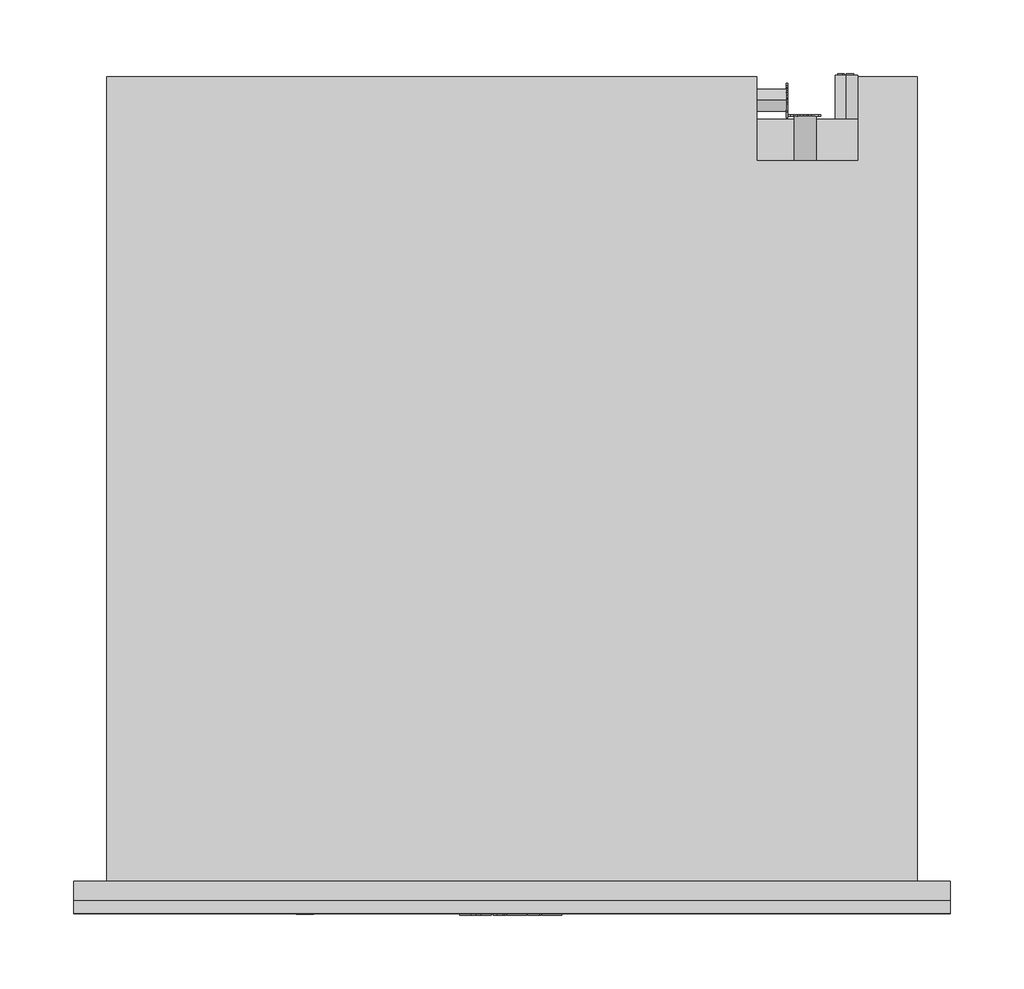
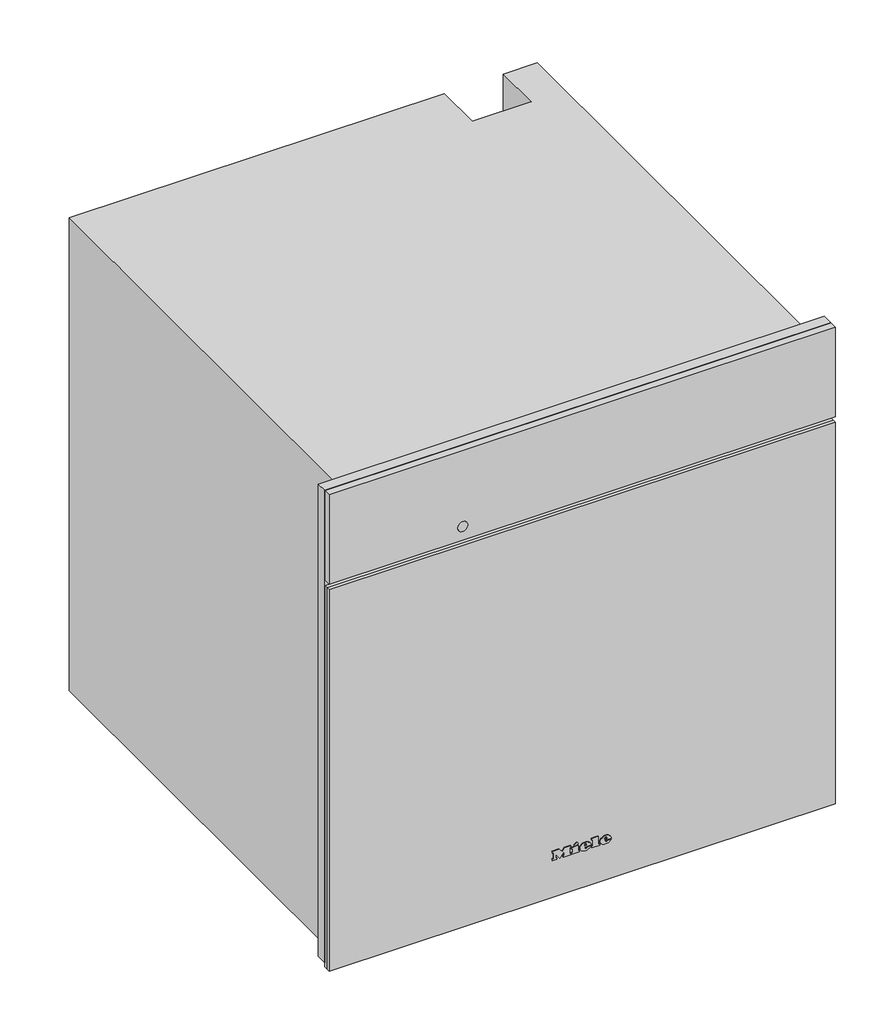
# Not in any storey: 1 proxy.
"""IFC4 building model written with IfcOpenShell, lengths in millimetres."""

import ifcopenshell
import ifcopenshell.guid

model = None  # the IFC model being written
_history = None  # IfcOwnerHistory: only IFC2X3 demands one
_inside = {}  # id of a spatial element -> (the spatial element, [elements in it])
_under = {}  # id of a project, library or spatial element -> (it, [spatial elements below it])
_declared = {}  # id of a project -> (the project, [libraries it declares])
_typed = {}  # id of a type object -> (the type object, [elements of that type])
_made_of = {}  # id of a material, layer set ... -> (it, [elements and type objects made of it])


def new_model(schema):
    """Start an empty IFC model of exactly this schema.

    Asked for "IFC4X3", IfcOpenShell would pick the latest addendum, in which some entities
    have other attributes; the version numbers below select the first issue.
    IFC2X3 requires an IfcOwnerHistory on every rooted entity: one is made here for all.
    """
    global model, _history
    if schema == "IFC4X3":
        model = ifcopenshell.file(schema_version=(4, 3, 0, 0))
    else:
        model = ifcopenshell.file(schema=schema)
    _inside.clear()
    _under.clear()
    _declared.clear()
    _typed.clear()
    _made_of.clear()
    _history = None
    if model.schema == "IFC2X3":
        org = make("IfcOrganization", Name="unknown")
        user = make(
            "IfcPersonAndOrganization",
            ThePerson=make("IfcPerson", FamilyName="unknown"),
            TheOrganization=org,
        )
        app = make(
            "IfcApplication",
            ApplicationDeveloper=org,
            Version="unknown",
            ApplicationFullName="unknown",
            ApplicationIdentifier="unknown",
        )
        _history = make(
            "IfcOwnerHistory",
            OwningUser=user,
            OwningApplication=app,
            ChangeAction="ADDED",
            CreationDate=0,
        )
    return model


def make(cls, **values):
    """One entity of the class cls with the attributes given. An attribute that is None is left unset."""
    return model.create_entity(
        cls, **{name: value for name, value in values.items() if value is not None}
    )


def rooted(cls, **values):
    """An entity with a GlobalId (a new one), such as an element, a storey or a relation."""
    return make(cls, GlobalId=ifcopenshell.guid.new(), OwnerHistory=_history, **values)


def si_unit(unit_type, name, prefix=None):
    """IfcSIUnit, for example si_unit("LENGTHUNIT", "METRE", prefix="MILLI")."""
    return make("IfcSIUnit", UnitType=unit_type, Prefix=prefix, Name=name)


def assignment(units):
    """IfcUnitAssignment: the units of a project."""
    return None if units is None else make("IfcUnitAssignment", Units=units)


def point(xyz):
    """IfcCartesianPoint."""
    return None if xyz is None else make("IfcCartesianPoint", Coordinates=xyz)


def direction(xyz):
    """IfcDirection."""
    return None if xyz is None else make("IfcDirection", DirectionRatios=xyz)


def frame(location, z_axis=None, x_axis=None):
    """IfcAxis2Placement3D, a coordinate frame: its origin and axes. An axis left out is left unset."""
    return make(
        "IfcAxis2Placement3D",
        Location=point(location),
        Axis=direction(z_axis),
        RefDirection=direction(x_axis),
    )


def frame_2d(location, x_axis=None):
    """IfcAxis2Placement2D, a coordinate frame in the plane: its origin and x axis."""
    return make(
        "IfcAxis2Placement2D", Location=point(location), RefDirection=direction(x_axis)
    )


def origin():
    """The frame at (0, 0, 0) with its axes left unset."""
    return frame((0.0, 0.0, 0.0))


def place(relative_to, where):
    """IfcLocalPlacement: puts the frame where relative to a parent placement (None: the world)."""
    return make(
        "IfcLocalPlacement", PlacementRelTo=relative_to, RelativePlacement=where
    )


def context(
    kind, dimensions, precision=None, world=None, true_north=None, identifier=None
):
    """IfcGeometricRepresentationContext, for example the 3D "Model" context."""
    return make(
        "IfcGeometricRepresentationContext",
        ContextIdentifier=identifier,
        ContextType=kind,
        CoordinateSpaceDimension=dimensions,
        Precision=precision,
        WorldCoordinateSystem=world,
        TrueNorth=true_north,
    )


def project(units=None, contexts=None):
    """IfcProject with its units and contexts."""
    return rooted(
        "IfcProject",
        Name="project",
        RepresentationContexts=contexts,
        UnitsInContext=assignment(units),
    )


def spatial(cls, under=None, at=None, **own):
    """A site, building, storey or space (cls), placed at a placement, below another one or the project."""
    s = rooted(cls, ObjectPlacement=at, **own)
    if under is not None:
        _under.setdefault(under.id(), (under, []))[1].append(s)
    return s


def polyline(points):
    """IfcPolyline through the points."""
    return make("IfcPolyline", Points=[point(p) for p in points])


def circle_curve(where, radius):
    """IfcCircle in the frame where."""
    return make("IfcCircle", Position=where, Radius=radius)


def ellipse_curve(where, semi_axis1, semi_axis2):
    """IfcEllipse in the frame where."""
    return make(
        "IfcEllipse", Position=where, SemiAxis1=semi_axis1, SemiAxis2=semi_axis2
    )


def trimmed(basis, trim1, trim2, sense, master):
    """IfcTrimmedCurve: the piece of a basis curve between two trims."""
    return make(
        "IfcTrimmedCurve",
        BasisCurve=basis,
        Trim1=trim1,
        Trim2=trim2,
        SenseAgreement=sense,
        MasterRepresentation=master,
    )


def segment(curve, same_sense, transition):
    """IfcCompositeCurveSegment."""
    return make(
        "IfcCompositeCurveSegment",
        Transition=transition,
        SameSense=same_sense,
        ParentCurve=curve,
    )


def composite_curve(segments, self_intersect=None):
    """IfcCompositeCurve: segments joined end to end."""
    return make("IfcCompositeCurve", Segments=segments, SelfIntersect=self_intersect)


def outline(outer, holes=None, kind="AREA"):
    """IfcArbitraryClosedProfileDef: a profile drawn as a closed curve; with holes, ...WithVoids."""
    if holes is None:
        return make("IfcArbitraryClosedProfileDef", ProfileType=kind, OuterCurve=outer)
    return make(
        "IfcArbitraryProfileDefWithVoids",
        ProfileType=kind,
        OuterCurve=outer,
        InnerCurves=holes,
    )


def extrude(swept, where, along, depth):
    """IfcExtrudedAreaSolid: the profile swept, set in the frame where, extruded along a direction by depth."""
    return make(
        "IfcExtrudedAreaSolid",
        SweptArea=swept,
        Position=where,
        ExtrudedDirection=direction(along),
        Depth=depth,
    )


def faces_of(points, faces, orient=None, outer=None):
    """IfcFace entities. A face is a list of loops; a loop is a list of indices into points, from 0.

    orient and outer hold one flag for each loop. By default every Orientation is true, the
    first loop of a face is its IfcFaceOuterBound and the others are IfcFaceBound.
    """
    made = []
    for i, loops in enumerate(faces):
        bounds = []
        for j, loop in enumerate(loops):
            is_outer = j == 0 if outer is None else outer[i][j]
            bounds.append(
                make(
                    "IfcFaceOuterBound" if is_outer else "IfcFaceBound",
                    Bound=make("IfcPolyLoop", Polygon=[points[k] for k in loop]),
                    Orientation=True if orient is None else orient[i][j],
                )
            )
        made.append(make("IfcFace", Bounds=bounds))
    return made


def faceted_brep(points, faces, orient=None, outer=None, voids=None):
    """IfcFacetedBrep: a solid bounded by flat faces; with voids (closed shells), ...WithVoids."""
    shared = [point(p) for p in points]
    hull = make("IfcClosedShell", CfsFaces=faces_of(shared, faces, orient, outer))
    if voids is None:
        return make("IfcFacetedBrep", Outer=hull)
    return make(
        "IfcFacetedBrepWithVoids",
        Outer=hull,
        Voids=[
            make(cls, CfsFaces=faces_of(shared, fs, o, b)) for cls, fs, o, b in voids
        ],
    )


def shape(context_of_items, identifier, shape_type, items):
    """IfcShapeRepresentation: the items that make up one representation, for example the "Body"."""
    return make(
        "IfcShapeRepresentation",
        ContextOfItems=context_of_items,
        RepresentationIdentifier=identifier,
        RepresentationType=shape_type,
        Items=items,
    )


def source(mapping_origin, context_of_items, identifier, shape_type, items):
    """IfcRepresentationMap: a shape defined once, which mapped items show again and again."""
    return make(
        "IfcRepresentationMap",
        MappingOrigin=mapping_origin,
        MappedRepresentation=shape(context_of_items, identifier, shape_type, items),
    )


def transform(
    local_origin,
    x_axis=None,
    y_axis=None,
    z_axis=None,
    scale=None,
    scale2=None,
    scale3=None,
    uniform=True,
):
    """IfcCartesianTransformationOperator3D, or its non-uniform kind. x_axis, y_axis, z_axis: its Axis1, 2, 3."""
    if uniform:
        return make(
            "IfcCartesianTransformationOperator3D",
            Axis1=direction(x_axis),
            Axis2=direction(y_axis),
            LocalOrigin=point(local_origin),
            Scale=scale,
            Axis3=direction(z_axis),
        )
    return make(
        "IfcCartesianTransformationOperator3DnonUniform",
        Axis1=direction(x_axis),
        Axis2=direction(y_axis),
        LocalOrigin=point(local_origin),
        Scale=scale,
        Axis3=direction(z_axis),
        Scale2=scale2,
        Scale3=scale3,
    )


def mapped(mapping_source, mapping_target):
    """IfcMappedItem: shows the shape of a source again, moved by a transform."""
    return make(
        "IfcMappedItem", MappingSource=mapping_source, MappingTarget=mapping_target
    )


def made_of(thing, what):
    """Note that an element or type object is made of a material, layer set ...; save() writes the relation."""
    if what is not None:
        _made_of.setdefault(what.id(), (what, []))[1].append(thing)
    return thing


def element(
    cls,
    number,
    at=None,
    inside=None,
    cuts=None,
    type_object=None,
    material=None,
    context=None,
    identifier="Body",
    shape_type=None,
    held_by="IfcProductDefinitionShape",
    body=None,
    shapes=None,
    **own,
):
    """One element of the class cls, such as IfcWall. Its Tag is "e" and its number.

    at: its placement. inside: the storey or other place that contains it. cuts: it is an
    opening in that element (IfcRelVoidsElement). A single representation is given by context,
    identifier, shape_type and body (its items); several are given by shapes. held_by: the class
    of the entity that holds the representations. save() writes the other relations.
    """
    e = rooted(cls, Tag="e%d" % number, ObjectPlacement=at, **own)
    if body is not None:
        shapes = [shape(context, identifier, shape_type, body)]
    if shapes is not None:
        e.Representation = make(held_by, Representations=shapes)
    if inside is not None:
        _inside.setdefault(inside.id(), (inside, []))[1].append(e)
    if cuts is not None:
        rooted(
            "IfcRelVoidsElement", RelatingBuildingElement=cuts, RelatedOpeningElement=e
        )
    if type_object is not None:
        _typed.setdefault(type_object.id(), (type_object, []))[1].append(e)
    return made_of(e, material)


def aggregate(whole, parts):
    """IfcRelAggregates: a whole, such as a stair, and the parts it consists of."""
    return rooted("IfcRelAggregates", RelatingObject=whole, RelatedObjects=parts)


def save(model, path):
    """Write the relations noted so far, then the file.

    IfcRelAggregates (storeys below a building ...), IfcRelContainedInSpatialStructure (elements
    in a storey), IfcRelDefinesByType, IfcRelAssociatesMaterial and IfcRelDeclares: one each for
    every whole, place, type object, material and project.
    """
    for whole, parts in _under.values():
        aggregate(whole, parts)
    for where, things in _inside.values():
        rooted(
            "IfcRelContainedInSpatialStructure",
            RelatedElements=things,
            RelatingStructure=where,
        )
    for kind, things in _typed.values():
        rooted("IfcRelDefinesByType", RelatedObjects=things, RelatingType=kind)
    for what, things in _made_of.values():
        rooted("IfcRelAssociatesMaterial", RelatedObjects=things, RelatingMaterial=what)
    for by, libraries in _declared.values():
        rooted("IfcRelDeclares", RelatingContext=by, RelatedDefinitions=libraries)
    model.write(path)


def plane_surface(at):
    """IfcPlane: the flat surface through the origin of the frame at, square to its z axis."""
    return make("IfcPlane", Position=at)


def cylinder_surface(at, radius):
    """IfcCylindricalSurface: all points at the distance radius from the z axis of the frame at."""
    return make("IfcCylindricalSurface", Position=at, Radius=radius)


def revolved_surface(curve, axis_point, axis_direction):
    """IfcSurfaceOfRevolution: the curve turned about the line through axis_point along axis_direction."""
    return make(
        "IfcSurfaceOfRevolution",
        SweptCurve=make("IfcArbitraryOpenProfileDef", ProfileType="CURVE", Curve=curve),
        AxisPosition=make("IfcAxis1Placement", Location=point(axis_point), Axis=direction(axis_direction)),
    )


def extruded_surface(curve, direction_of_extrusion, depth):
    """IfcSurfaceOfLinearExtrusion: the curve pushed along a direction by depth."""
    return make(
        "IfcSurfaceOfLinearExtrusion",
        SweptCurve=make("IfcArbitraryOpenProfileDef", ProfileType="CURVE", Curve=curve),
        ExtrudedDirection=direction(direction_of_extrusion),
        Depth=depth,
    )


def advanced_brep(points, edges, surfaces, faces):
    """IfcAdvancedBrep: a solid bounded by faces that lie on surfaces and meet in shared edges.

    An edge is (start, end): straight between two places in points (the first is 0);
    or (start, end, curve); or (start, end, curve, False) where it runs against its curve.
    A face is (place in surfaces, loops), or (place, loops, False) where it looks against
    its surface's normal. A loop lists edges by number (the first is 1), with a minus sign
    where the edge is run from its end to its start. The first loop is the outer one.
    """
    corners = [point(p) for p in points]
    vertices = [make("IfcVertexPoint", VertexGeometry=c) for c in corners]
    made = []
    for start, end, *more in edges:
        made.append(
            make(
                "IfcEdgeCurve",
                EdgeStart=vertices[start],
                EdgeEnd=vertices[end],
                EdgeGeometry=more[0] if more else make("IfcPolyline", Points=[corners[start], corners[end]]),
                SameSense=more[1] if len(more) > 1 else True,
            )
        )
    hull = []
    for where, loops, *sense in faces:
        bounds = []
        for j, loop in enumerate(loops):
            ring = [make("IfcOrientedEdge", EdgeElement=made[abs(k) - 1], Orientation=k > 0) for k in loop]
            bounds.append(
                make(
                    "IfcFaceOuterBound" if j == 0 else "IfcFaceBound",
                    Bound=make("IfcEdgeLoop", EdgeList=ring),
                    Orientation=True,
                )
            )
        hull.append(make("IfcAdvancedFace", Bounds=bounds, FaceSurface=surfaces[where], SameSense=sense[0] if sense else True))
    return make("IfcAdvancedBrep", Outer=make("IfcClosedShell", CfsFaces=hull))


def specialty_equipment_e31bad16(model_context):
    return source(origin(), model_context, "Body", "SolidModel", [
        extrude(outline(polyline([(596.0, 297.5), (596.0, -297.5), (9.0, -297.5), (9.0, 297.5), (596.0, 297.5)]), holes=[polyline([(485.0, -272.5), (485.0, 272.5), (27.0, 272.5), (27.0, -272.5), (485.0, -272.5)])]), frame((0.0, -13.0, 0.0), z_axis=(0.0, 1.0, 0.0), x_axis=(0.0, 0.0, 1.0)), (0.0, 0.0, 1.0), 13.0),
        extrude(outline(polyline([(523.0, 196.9217896), (523.0, 198.4267862), (533.0435673, 201.1942402), (533.0435673, 199.9014806), (524.4295103, 197.7797951), (533.0470645, 195.3087512), (533.0470645, 193.4373937), (524.4121052, 190.9191482), (533.0472266, 188.8443938), (533.0472266, 187.5376524), (523.0, 190.2769667), (523.0, 191.6257455), (531.8347238, 194.3884733), (523.0, 196.9217896)])), frame((0.0, 519.0, 0.0), z_axis=(0.0, 1.0, 0.0), x_axis=(0.0, 0.0, 1.0)), (0.0, 0.0, 1.0), 1.0),
        extrude(outline(polyline([(533.0468463, 209.521488), (533.0468463, 208.2566067), (528.129594, 208.2566067), (533.0474898, 203.1074328), (533.0474898, 201.3597489), (528.9313111, 205.6695027), (523.0, 201.1858157), (523.0, 202.7358731), (528.0700777, 206.5685235), (526.4282746, 208.2823622), (523.0, 208.2823622), (523.0, 209.521488), (533.0468463, 209.521488)])), frame((0.0, 519.0, 0.0), z_axis=(0.0, 1.0, 0.0), x_axis=(0.0, 0.0, 1.0)), (0.0, 0.0, 1.0), 1.0),
        extrude(outline(polyline([(518.3136153, 20.0), (522.323529, 30.045631), (523.3928394, 30.045631), (527.4027531, 20.0), (526.0759254, 20.0), (524.925681, 23.1392597), (520.7882348, 23.1392597), (519.640443, 20.0), (518.3136153, 20.0)]), holes=[polyline([(521.2493136, 24.3949636), (524.4670548, 24.3949636), (523.5620651, 26.864678), (522.8581842, 28.7899271), (522.2327848, 27.0805021), (521.2493136, 24.3949636)])]), frame((186.0, 0.0, 0.0), z_axis=(1.0, 0.0, 0.0), x_axis=(0.0, 1.0, 0.0)), (0.0, 0.0, 1.0), 1.0),
        extrude(outline(polyline([(530.5420128, 20.0), (527.8025182, 30.045631), (529.0974628, 30.045631), (530.6867131, 23.4433755), (531.1772224, 21.4053092), (531.7020674, 23.207931), (533.6935352, 30.045631), (535.5599232, 30.045631), (537.0069257, 25.0890343), (538.0835937, 21.4053092), (538.5593878, 23.3845144), (540.1633533, 30.045631), (541.4582979, 30.045631), (538.7163507, 20.0), (537.3748077, 20.0), (534.9664069, 27.7500474), (534.630408, 28.8316204), (534.2527159, 27.5293182), (532.0576866, 20.0), (530.5420128, 20.0)])), frame((186.0, 0.0, 0.0), z_axis=(1.0, 0.0, 0.0), x_axis=(0.0, 1.0, 0.0)), (0.0, 0.0, 1.0), 1.0),
        advanced_brep(
        [(227.0, 547.0, 396.5), (227.0, 547.0, 381.5), (221.4098301, 547.0, 384.0), (225.5, 547.0, 384.0), (225.5, 547.0, 394.0), (224.4955303, 547.0, 394.0), (224.4955303, 547.0, 385.0), (221.0315043, 547.0, 385.0), (221.0315043, 547.0, 384.4582978), (232.0, 547.0, 384.0), (232.0, 547.0, 394.0), (227.0, 547.0, 394.0), (227.0, 547.0, 393.0), (231.0, 547.0, 393.0), (231.0, 547.0, 389.5), (228.0, 547.0, 389.5), (228.0, 547.0, 388.5), (231.0, 547.0, 388.5), (231.0, 547.0, 385.0), (227.0, 547.0, 385.0), (227.0, 547.0, 384.0), (227.0, 517.0, 381.5), (227.0, 517.0, 396.5), (232.0, 548.0, 394.0), (232.0, 548.0, 384.0), (227.0, 548.0, 384.0), (227.0, 548.0, 385.0), (231.0, 548.0, 385.0), (231.0, 548.0, 388.5), (228.0, 548.0, 388.5), (228.0, 548.0, 389.5), (231.0, 548.0, 389.5), (231.0, 548.0, 393.0), (227.0, 548.0, 393.0), (227.0, 548.0, 394.0), (225.5, 548.0, 384.0), (221.0315043, 548.0, 384.0), (221.0315043, 548.0, 385.0), (224.4955303, 548.0, 385.0), (224.4955303, 548.0, 394.0), (225.5, 548.0, 394.0), (221.0315043, 547.0, 384.0)],
        [
            (0, 1, circle_curve(frame((227.0, 547.0, 389.0), z_axis=(0.0, 1.0, 0.0), x_axis=(0.0, 0.0, 1.0)), 7.5)),
            (1, 2, circle_curve(frame((227.0, 547.0, 389.0), z_axis=(0.0, 1.0, 0.0), x_axis=(0.0, 0.0, 1.0)), 7.5)),
            (2, 3),
            (3, 4),
            (4, 5),
            (5, 6),
            (6, 7),
            (7, 8),
            (8, 0, circle_curve(frame((227.0, 547.0, 389.0), z_axis=(0.0, 1.0, 0.0), x_axis=(0.0, 0.0, 1.0)), 7.5)),
            (9, 10),
            (10, 11),
            (11, 12),
            (12, 13),
            (13, 14),
            (14, 15),
            (15, 16),
            (16, 17),
            (17, 18),
            (18, 19),
            (19, 20),
            (20, 9),
            (21, 22, circle_curve(frame((227.0, 517.0, 389.0), z_axis=(0.0, -1.0, 0.0), x_axis=(0.0, 0.0, 1.0)), 7.5)),
            (22, 21, circle_curve(frame((227.0, 517.0, 389.0), z_axis=(0.0, -1.0, 0.0), x_axis=(0.0, 0.0, 1.0)), 7.5)),
            (0, 22),
            (21, 1),
            (8, 2, circle_curve(frame((227.0, 547.0, 389.0), z_axis=(0.0, -1.0, 0.0), x_axis=(0.0, 0.0, 1.0)), 7.5)),
            (23, 24),
            (24, 25),
            (25, 26),
            (26, 27),
            (27, 28),
            (28, 29),
            (29, 30),
            (30, 31),
            (31, 32),
            (32, 33),
            (33, 34),
            (34, 23),
            (35, 36),
            (36, 37),
            (37, 38),
            (38, 39),
            (39, 40),
            (40, 35),
            (8, 41),
            (41, 2),
            (23, 10),
            (9, 24),
            (20, 25),
            (19, 26),
            (18, 27),
            (17, 28),
            (16, 29),
            (15, 30),
            (14, 31),
            (13, 32),
            (12, 33),
            (11, 34),
            (35, 3),
            (41, 36),
            (7, 37),
            (6, 38),
            (5, 39),
            (4, 40),
        ],
        [
            plane_surface(frame((227.0, 547.0, 396.5), z_axis=(0.0, 1.0, 0.0), x_axis=(1.0, 0.0, 0.0))),
            plane_surface(frame((227.0, 517.0, 396.5), z_axis=(0.0, -1.0, 0.0), x_axis=(-1.0, 0.0, 0.0))),
            cylinder_surface(frame((227.0, 547.0, 389.0), z_axis=(0.0, -1.0, 0.0), x_axis=(0.0, 0.0, 1.0)), 7.5),
            plane_surface(frame((232.0, 548.0, 394.0), z_axis=(0.0, 1.0, 0.0), x_axis=(0.0, 0.0, -1.0))),
            plane_surface(frame((232.0, 547.0, 394.0), z_axis=(0.0, -1.0, 0.0), x_axis=(0.0, 0.0, 1.0))),
            plane_surface(frame((232.0, 548.0, 394.0), z_axis=(1.0, 0.0, 0.0), x_axis=(0.0, -1.0, 0.0))),
            plane_surface(frame((232.0, 548.0, 384.0), z_axis=(0.0, 0.0, -1.0), x_axis=(0.0, -1.0, 0.0))),
            plane_surface(frame((227.0, 548.0, 384.0), z_axis=(-1.0, 0.0, 0.0), x_axis=(0.0, -1.0, 0.0))),
            plane_surface(frame((227.0, 548.0, 385.0), z_axis=(0.0, 0.0, 1.0), x_axis=(0.0, -1.0, 0.0))),
            plane_surface(frame((231.0, 548.0, 385.0), z_axis=(-1.0, 0.0, 0.0), x_axis=(0.0, -1.0, 0.0))),
            plane_surface(frame((231.0, 548.0, 388.5), z_axis=(0.0, 0.0, -1.0), x_axis=(0.0, -1.0, 0.0))),
            plane_surface(frame((228.0, 548.0, 388.5), z_axis=(-1.0, 0.0, 0.0), x_axis=(0.0, -1.0, 0.0))),
            plane_surface(frame((228.0, 548.0, 389.5), z_axis=(0.0, 0.0, 1.0), x_axis=(0.0, -1.0, 0.0))),
            plane_surface(frame((231.0, 548.0, 389.5), z_axis=(-1.0, 0.0, 0.0), x_axis=(0.0, -1.0, 0.0))),
            plane_surface(frame((231.0, 548.0, 393.0), z_axis=(0.0, 0.0, -1.0), x_axis=(0.0, -1.0, 0.0))),
            plane_surface(frame((227.0, 548.0, 393.0), z_axis=(-1.0, 0.0, 0.0), x_axis=(0.0, -1.0, 0.0))),
            plane_surface(frame((227.0, 548.0, 394.0), z_axis=(0.0, 0.0, 1.0), x_axis=(0.0, -1.0, 0.0))),
            plane_surface(frame((225.5, 548.0, 384.0), z_axis=(0.0, 0.0, -1.0), x_axis=(0.0, -1.0, 0.0))),
            plane_surface(frame((221.0315043, 548.0, 384.0), z_axis=(-1.0, 0.0, 0.0), x_axis=(0.0, -1.0, 0.0))),
            plane_surface(frame((221.0315043, 548.0, 385.0), z_axis=(0.0, 0.0, 1.0), x_axis=(0.0, -1.0, 0.0))),
            plane_surface(frame((224.4955303, 548.0, 385.0), z_axis=(-1.0, 0.0, 0.0), x_axis=(0.0, -1.0, 0.0))),
            plane_surface(frame((224.4955303, 548.0, 394.0), z_axis=(0.0, 0.0, 1.0), x_axis=(0.0, -1.0, 0.0))),
            plane_surface(frame((225.5, 548.0, 394.0), z_axis=(1.0, 0.0, 0.0), x_axis=(0.0, -1.0, 0.0))),
        ],
        [
            (0, [[1, 2, 3, 4, 5, 6, 7, 8, 9], [10, 11, 12, 13, 14, 15, 16, 17, 18, 19, 20, 21]]),
            (1, [[22, 23]]),
            (2, [[-1, 24, -22, 25]]),
            (2, [[-23, -24, -9, 26, -2, -25]]),
            (3, [[27, 28, 29, 30, 31, 32, 33, 34, 35, 36, 37, 38]]),
            (3, [[39, 40, 41, 42, 43, 44]]),
            (4, [[45, 46, -26]]),
            (5, [[-27, 47, -10, 48]]),
            (6, [[-28, -48, -21, 49]]),
            (7, [[-29, -49, -20, 50]]),
            (8, [[-30, -50, -19, 51]]),
            (9, [[-31, -51, -18, 52]]),
            (10, [[-32, -52, -17, 53]]),
            (11, [[-33, -53, -16, 54]]),
            (12, [[-34, -54, -15, 55]]),
            (13, [[-35, -55, -14, 56]]),
            (14, [[-36, -56, -13, 57]]),
            (15, [[-37, -57, -12, 58]]),
            (16, [[-38, -58, -11, -47]]),
            (17, [[-39, 59, -3, -46, 60]]),
            (18, [[-40, -60, -45, -8, 61]]),
            (19, [[-41, -61, -7, 62]]),
            (20, [[-42, -62, -6, 63]]),
            (21, [[-43, -63, -5, 64]]),
            (22, [[-44, -64, -4, -59]]),
        ],
    ),
        extrude(outline(composite_curve([segment(trimmed(circle_curve(frame_2d((528.0, 199.0)), 7.5), [point((528.0, 206.5))], [point((528.0, 191.5))], False, "CARTESIAN"), True, "CONTINUOUS"), segment(trimmed(circle_curve(frame_2d((528.0, 199.0)), 7.5), [point((528.0, 191.5))], [point((528.0, 206.5))], False, "CARTESIAN"), True, "CONTINUOUS")], self_intersect=False)), frame((0.0, 489.0, 0.0), z_axis=(0.0, 1.0, 0.0), x_axis=(0.0, 0.0, 1.0)), (0.0, 0.0, 1.0), 30.0),
        extrude(outline(composite_curve([segment(trimmed(circle_curve(frame_2d((530.0, 25.0)), 7.5), [point((530.0, 17.5))], [point((530.0, 32.5))], False, "CARTESIAN"), True, "CONTINUOUS"), segment(trimmed(circle_curve(frame_2d((530.0, 25.0)), 7.5), [point((530.0, 32.5))], [point((530.0, 17.5))], False, "CARTESIAN"), True, "CONTINUOUS")], self_intersect=False)), frame((166.0, 0.0, 0.0), z_axis=(1.0, 0.0, 0.0), x_axis=(0.0, 1.0, 0.0)), (0.0, 0.0, 1.0), 20.0),
        faceted_brep([(-275.0, 546.0, 0.0), (-275.0, 546.0, 588.0), (166.0, 546.0, 588.0), (166.0, 546.0, 0.0), (235.0, 546.0, 588.0), (275.0, 546.0, 588.0), (275.0, 546.0, 478.0), (235.0, 546.0, 478.0), (275.0, 0.0, 588.0), (-275.0, 0.0, 588.0), (-275.0, 0.0, 0.0), (275.0, 0.0, 0.0), (-272.5, 0.0, 485.0), (272.5, 0.0, 485.0), (272.5, 0.0, 27.0), (-272.5, 0.0, 27.0), (235.0, 489.0, 588.0), (166.0, 489.0, 588.0), (166.0, 517.0, 0.0), (275.0, 517.0, 0.0), (275.0, 517.0, 478.0), (272.5, 17.0, 485.0), (-272.5, 17.0, 485.0), (-272.5, 17.0, 27.0), (272.5, 17.0, 27.0), (231.0, 17.0, 409.0), (231.0, 17.0, 61.0), (-231.0, 17.0, 61.0), (-231.0, 17.0, 409.0), (231.0, 411.0, 409.0), (-231.0, 411.0, 409.0), (-231.0, 411.0, 61.0), (231.0, 411.0, 61.0), (235.0, 489.0, 477.0), (166.0, 489.0, 477.0), (166.0, 517.0, 477.0), (235.0, 517.0, 477.0), (235.0, 517.0, 478.0)], [[[0, 1, 2, 3]], [[4, 5, 6, 7]], [[8, 9, 10, 11], [12, 13, 14, 15]], [[9, 8, 5, 4, 16, 17, 2, 1]], [[1, 0, 10, 9]], [[11, 10, 0, 3, 18, 19]], [[8, 11, 19, 20, 6, 5]], [[21, 22, 23, 24], [25, 26, 27, 28]], [[22, 21, 13, 12]], [[23, 22, 12, 15]], [[24, 23, 15, 14]], [[21, 24, 14, 13]], [[29, 30, 31, 32]], [[29, 32, 26, 25]], [[32, 31, 27, 26]], [[31, 30, 28, 27]], [[30, 29, 25, 28]], [[16, 33, 34, 17]], [[17, 34, 35, 18, 3, 2]], [[34, 33, 36, 35]], [[33, 16, 4, 7, 37, 36]], [[37, 20, 19, 18, 35, 36]], [[20, 37, 7, 6]]]),
        advanced_brep(
        [(26.2998, -23.0, 52.7018), (26.2998, -23.0, 53.8532), (33.9264, -23.0, 53.8532), (20.6568, -23.0, 53.8532), (23.7918, -23.0, 50.0), (33.7326, -23.0, 52.7018), (30.2898, -23.0, 52.7018), (27.5766, -23.0, 51.425), (26.2998, -23.0, 55.3124), (26.2998, -23.0, 56.555), (28.2492, -23.0, 56.555), (28.2492, -23.0, 55.3124), (26.2998, -22.0, 52.7018), (27.5766, -22.0, 51.425), (30.2898, -22.0, 52.7018), (33.7326, -22.0, 52.7018), (23.7918, -22.0, 50.0), (20.6568, -22.0, 53.8532), (33.9264, -22.0, 53.8532), (26.2998, -22.0, 53.8532), (26.2998, -22.0, 55.3124), (28.2492, -22.0, 55.3124), (28.2492, -22.0, 56.555), (26.2998, -22.0, 56.555)],
        [
            (0, 1),
            (1, 2),
            (2, 3, ellipse_curve(frame((27.2916, -23.0, 53.8532), z_axis=(0.0, -1.0, 0.0), x_axis=(-1.0, 0.0, 0.0)), 6.6348, 5.4834)),
            (3, 4, circle_curve(frame((25.0686622, -23.0, 54.2408), z_axis=(0.0, -1.0, 0.0), x_axis=(0.0, 0.0, -1.0)), 4.4288556)),
            (4, 5, circle_curve(frame((27.1587808, -23.0, 57.2504), z_axis=(0.0, -1.0, 0.0), x_axis=(0.0, 0.0, -1.0)), 7.9940516)),
            (5, 6),
            (6, 7, circle_curve(frame((28.1338588, -23.0, 53.762), z_axis=(0.0, 1.0, 0.0), x_axis=(0.0, 0.0, -1.0)), 2.4025208)),
            (7, 0, circle_curve(frame((27.5766, -23.0, 52.7018), z_axis=(0.0, 1.0, 0.0), x_axis=(0.0, 0.0, -1.0)), 1.2768)),
            (8, 9),
            (9, 10, circle_curve(frame((27.2745, -23.0, 56.555), z_axis=(0.0, 1.0, 0.0), x_axis=(0.0, 0.0, -1.0)), 0.9747)),
            (10, 11),
            (11, 8),
            (12, 13, circle_curve(frame((27.5766, -22.0, 52.7018), z_axis=(0.0, -1.0, 0.0), x_axis=(0.0, 0.0, -1.0)), 1.2768)),
            (13, 14, circle_curve(frame((28.1338588, -22.0, 53.762), z_axis=(0.0, -1.0, 0.0), x_axis=(0.0, 0.0, -1.0)), 2.4025208)),
            (14, 15),
            (15, 16, circle_curve(frame((27.1587808, -22.0, 57.2504), z_axis=(0.0, 1.0, 0.0), x_axis=(0.0, 0.0, -1.0)), 7.9940516)),
            (16, 17, circle_curve(frame((25.0686622, -22.0, 54.2408), z_axis=(0.0, 1.0, 0.0), x_axis=(0.0, 0.0, -1.0)), 4.4288556)),
            (17, 18, ellipse_curve(frame((27.2916, -22.0, 53.8532), z_axis=(0.0, 1.0, 0.0), x_axis=(-1.0, 0.0, 0.0)), 6.6348, 5.4834)),
            (18, 19),
            (19, 12),
            (20, 21),
            (21, 22),
            (22, 23, circle_curve(frame((27.2745, -22.0, 56.555), z_axis=(0.0, -1.0, 0.0), x_axis=(0.0, 0.0, -1.0)), 0.9747)),
            (23, 20),
            (0, 12),
            (19, 1),
            (18, 2),
            (5, 15),
            (14, 6),
            (17, 3),
            (13, 7),
            (16, 4),
            (8, 20),
            (23, 9),
            (22, 10),
            (21, 11),
        ],
        [
            plane_surface(frame((26.2998, -23.0, 53.8532), z_axis=(0.0, -1.0, 0.0), x_axis=(0.0, 0.0, 1.0))),
            plane_surface(frame((26.2998, -22.0, 53.8532), z_axis=(0.0, 1.0, 0.0), x_axis=(0.0, 0.0, -1.0))),
            plane_surface(frame((26.2998, -23.0, 52.7018), z_axis=(1.0, 0.0, 0.0), x_axis=(0.0, 1.0, 0.0))),
            plane_surface(frame((26.2998, -23.0, 53.8532), z_axis=(0.0, 0.0, -1.0), x_axis=(0.0, 1.0, 0.0))),
            plane_surface(frame((33.7326, -23.0, 52.7018), z_axis=(0.0, 0.0, 1.0), x_axis=(0.0, 1.0, 0.0))),
            extruded_surface(trimmed(ellipse_curve(frame((27.2916, -21.0, 53.8532), z_axis=(0.0, -1.0, 0.0), x_axis=(-1.0, 0.0, 0.0)), 6.6348, 5.4834), [point((33.9264, -21.0, 53.8532))], [point((20.6568, -21.0, 53.8532))], True, "CARTESIAN"), (0.0, -1.0, 0.0), 1.0),
            revolved_surface(polyline([(28.1338588, -22.0, 51.3594792), (28.1338588, -23.0, 51.3594792)]), (28.1338588, -22.0, 53.762), (0.0, 1.0, 0.0)),
            revolved_surface(polyline([(27.5766, -22.0, 51.425), (27.5766, -23.0, 51.425)]), (27.5766, -22.0, 52.7018), (0.0, 1.0, 0.0)),
            cylinder_surface(frame((25.0686622, -22.0, 54.2408), z_axis=(0.0, -1.0, 0.0), x_axis=(0.0, 0.0, -1.0)), 4.4288556),
            cylinder_surface(frame((27.1587808, -22.0, 57.2504), z_axis=(0.0, -1.0, 0.0), x_axis=(0.0, 0.0, -1.0)), 7.9940516),
            plane_surface(frame((26.2998, -23.0, 55.3124), z_axis=(1.0, 0.0, 0.0), x_axis=(0.0, 1.0, 0.0))),
            revolved_surface(polyline([(27.2745, -22.0, 55.5803), (27.2745, -23.0, 55.5803)]), (27.2745, -22.0, 56.555), (0.0, 1.0, 0.0)),
            plane_surface(frame((28.2492, -23.0, 56.555), z_axis=(-1.0, 0.0, 0.0), x_axis=(0.0, 1.0, 0.0))),
            plane_surface(frame((28.2492, -23.0, 55.3124), z_axis=(0.0, 0.0, 1.0), x_axis=(0.0, 1.0, 0.0))),
        ],
        [
            (0, [[1, 2, 3, 4, 5, 6, 7, 8], [9, 10, 11, 12]]),
            (1, [[13, 14, 15, 16, 17, 18, 19, 20], [21, 22, 23, 24]]),
            (2, [[-1, 25, -20, 26]]),
            (3, [[-2, -26, -19, 27]]),
            (4, [[-6, 28, -15, 29]]),
            (5, [[-3, -27, -18, 30]]),
            (6, [[-7, -29, -14, 31]]),
            (7, [[-8, -31, -13, -25]]),
            (8, [[-4, -30, -17, 32]]),
            (9, [[-5, -32, -16, -28]]),
            (10, [[-9, 33, -24, 34]]),
            (11, [[-10, -34, -23, 35]]),
            (12, [[-11, -35, -22, 36]]),
            (13, [[-12, -36, -21, -33]]),
        ],
    ),
        advanced_brep(
        [(2.508, -23.0, 52.7018), (2.508, -23.0, 53.8532), (10.1346, -23.0, 53.8532), (-3.135, -23.0, 53.8532), (0.0, -23.0, 50.0), (9.9408, -23.0, 52.7018), (6.498, -23.0, 52.7018), (3.7848, -23.0, 51.425), (2.508, -23.0, 55.3124), (2.508, -23.0, 56.555), (4.4574, -23.0, 56.555), (4.4574, -23.0, 55.3124), (2.508, -22.0, 52.7018), (3.7848, -22.0, 51.425), (6.498, -22.0, 52.7018), (9.9408, -22.0, 52.7018), (0.0, -22.0, 50.0), (-3.135, -22.0, 53.8532), (10.1346, -22.0, 53.8532), (2.508, -22.0, 53.8532), (2.508, -22.0, 55.3124), (4.4574, -22.0, 55.3124), (4.4574, -22.0, 56.555), (2.508, -22.0, 56.555)],
        [
            (0, 1),
            (1, 2),
            (2, 3, ellipse_curve(frame((3.4998, -23.0, 53.8532), z_axis=(0.0, -1.0, 0.0), x_axis=(-1.0, 0.0, 0.0)), 6.6348, 5.4834)),
            (3, 4, circle_curve(frame((1.2768622, -23.0, 54.2408), z_axis=(0.0, -1.0, 0.0), x_axis=(0.0, 0.0, -1.0)), 4.4288556)),
            (4, 5, circle_curve(frame((3.3669808, -23.0, 57.2504), z_axis=(0.0, -1.0, 0.0), x_axis=(0.0, 0.0, -1.0)), 7.9940516)),
            (5, 6),
            (6, 7, circle_curve(frame((4.3420588, -23.0, 53.762), z_axis=(0.0, 1.0, 0.0), x_axis=(0.0, 0.0, -1.0)), 2.4025208)),
            (7, 0, circle_curve(frame((3.7848, -23.0, 52.7018), z_axis=(0.0, 1.0, 0.0), x_axis=(0.0, 0.0, -1.0)), 1.2768)),
            (8, 9),
            (9, 10, circle_curve(frame((3.4827, -23.0, 56.555), z_axis=(0.0, 1.0, 0.0), x_axis=(0.0, 0.0, -1.0)), 0.9747)),
            (10, 11),
            (11, 8),
            (12, 13, circle_curve(frame((3.7848, -22.0, 52.7018), z_axis=(0.0, -1.0, 0.0), x_axis=(0.0, 0.0, -1.0)), 1.2768)),
            (13, 14, circle_curve(frame((4.3420588, -22.0, 53.762), z_axis=(0.0, -1.0, 0.0), x_axis=(0.0, 0.0, -1.0)), 2.4025208)),
            (14, 15),
            (15, 16, circle_curve(frame((3.3669808, -22.0, 57.2504), z_axis=(0.0, 1.0, 0.0), x_axis=(0.0, 0.0, -1.0)), 7.9940516)),
            (16, 17, circle_curve(frame((1.2768622, -22.0, 54.2408), z_axis=(0.0, 1.0, 0.0), x_axis=(0.0, 0.0, -1.0)), 4.4288556)),
            (17, 18, ellipse_curve(frame((3.4998, -22.0, 53.8532), z_axis=(0.0, 1.0, 0.0), x_axis=(-1.0, 0.0, 0.0)), 6.6348, 5.4834)),
            (18, 19),
            (19, 12),
            (20, 21),
            (21, 22),
            (22, 23, circle_curve(frame((3.4827, -22.0, 56.555), z_axis=(0.0, -1.0, 0.0), x_axis=(0.0, 0.0, -1.0)), 0.9747)),
            (23, 20),
            (0, 12),
            (19, 1),
            (18, 2),
            (5, 15),
            (14, 6),
            (17, 3),
            (13, 7),
            (16, 4),
            (8, 20),
            (23, 9),
            (22, 10),
            (21, 11),
        ],
        [
            plane_surface(frame((2.508, -23.0, 53.8532), z_axis=(0.0, -1.0, 0.0), x_axis=(0.0, 0.0, 1.0))),
            plane_surface(frame((2.508, -22.0, 53.8532), z_axis=(0.0, 1.0, 0.0), x_axis=(0.0, 0.0, -1.0))),
            plane_surface(frame((2.508, -23.0, 52.7018), z_axis=(1.0, 0.0, 0.0), x_axis=(0.0, 1.0, 0.0))),
            plane_surface(frame((2.508, -23.0, 53.8532), z_axis=(0.0, 0.0, -1.0), x_axis=(0.0, 1.0, 0.0))),
            plane_surface(frame((9.9408, -23.0, 52.7018), z_axis=(0.0, 0.0, 1.0), x_axis=(0.0, 1.0, 0.0))),
            extruded_surface(trimmed(ellipse_curve(frame((3.4998, -21.0, 53.8532), z_axis=(0.0, -1.0, 0.0), x_axis=(-1.0, 0.0, 0.0)), 6.6348, 5.4834), [point((10.1346, -21.0, 53.8532))], [point((-3.135, -21.0, 53.8532))], True, "CARTESIAN"), (0.0, -1.0, 0.0), 1.0),
            revolved_surface(polyline([(4.3420588, -22.0, 51.3594792), (4.3420588, -23.0, 51.3594792)]), (4.3420588, -22.0, 53.762), (0.0, 1.0, 0.0)),
            revolved_surface(polyline([(3.7848, -22.0, 51.425), (3.7848, -23.0, 51.425)]), (3.7848, -22.0, 52.7018), (0.0, 1.0, 0.0)),
            cylinder_surface(frame((1.2768622, -22.0, 54.2408), z_axis=(0.0, -1.0, 0.0), x_axis=(0.0, 0.0, -1.0)), 4.4288556),
            cylinder_surface(frame((3.3669808, -22.0, 57.2504), z_axis=(0.0, -1.0, 0.0), x_axis=(0.0, 0.0, -1.0)), 7.9940516),
            plane_surface(frame((2.508, -23.0, 55.3124), z_axis=(1.0, 0.0, 0.0), x_axis=(0.0, 1.0, 0.0))),
            revolved_surface(polyline([(3.4827, -22.0, 55.5803), (3.4827, -23.0, 55.5803)]), (3.4827, -22.0, 56.555), (0.0, 1.0, 0.0)),
            plane_surface(frame((4.4574, -23.0, 56.555), z_axis=(-1.0, 0.0, 0.0), x_axis=(0.0, 1.0, 0.0))),
            plane_surface(frame((4.4574, -23.0, 55.3124), z_axis=(0.0, 0.0, 1.0), x_axis=(0.0, 1.0, 0.0))),
        ],
        [
            (0, [[1, 2, 3, 4, 5, 6, 7, 8], [9, 10, 11, 12]]),
            (1, [[13, 14, 15, 16, 17, 18, 19, 20], [21, 22, 23, 24]]),
            (2, [[-1, 25, -20, 26]]),
            (3, [[-2, -26, -19, 27]]),
            (4, [[-6, 28, -15, 29]]),
            (5, [[-3, -27, -18, 30]]),
            (6, [[-7, -29, -14, 31]]),
            (7, [[-8, -31, -13, -25]]),
            (8, [[-4, -30, -17, 32]]),
            (9, [[-5, -32, -16, -28]]),
            (10, [[-9, 33, -24, 34]]),
            (11, [[-10, -34, -23, 35]]),
            (12, [[-11, -35, -22, 36]]),
            (13, [[-12, -36, -21, -33]]),
        ],
    ),
        extrude(outline(polyline([(60.7274, -9.9522), (58.8806, -9.0858), (60.6818, -5.2212), (62.5286, -6.0762), (60.7274, -9.9522)])), frame((0.0, -23.0, 0.0), z_axis=(0.0, 1.0, 0.0), x_axis=(0.0, 0.0, 1.0)), (0.0, 0.0, 1.0), 1.0),
        extrude(outline(polyline([(58.6298, -12.768), (56.5892, -12.768), (56.5892, -11.4114), (51.9152, -11.4114), (51.9152, -12.768), (50.0, -12.768), (50.0, -3.7734), (51.9152, -3.7734), (51.9152, -5.0958), (58.6298, -5.0958), (58.6298, -12.768)])), frame((0.0, -23.0, 0.0), z_axis=(0.0, 1.0, 0.0), x_axis=(0.0, 0.0, 1.0)), (0.0, 0.0, 1.0), 1.0),
        extrude(outline(polyline([(59.5418, 10.773), (59.5418, 12.141), (51.9152, 12.141), (51.9152, 10.773), (50.0, 10.773), (50.0, 20.0184), (51.9152, 20.0184), (51.9152, 18.6162), (61.4, 18.6162), (61.4, 10.773), (59.5418, 10.773)])), frame((0.0, -23.0, 0.0), z_axis=(0.0, 1.0, 0.0), x_axis=(0.0, 0.0, 1.0)), (0.0, 0.0, 1.0), 1.0),
        extrude(outline(polyline([(59.5418, -35.4882), (59.5418, -34.1088), (51.9152, -34.1088), (51.9152, -35.4882), (50.0, -35.4882), (50.0, -30.4722), (51.9152, -30.4722), (51.9152, -31.8402), (56.7429247, -31.8402), (50.0, -26.7444), (56.9402223, -21.6258), (51.9152, -21.6258), (51.9152, -23.028), (50.0, -23.028), (50.0, -13.9308), (51.9152, -13.9308), (51.9152, -15.3786), (59.5418, -15.3786), (59.5418, -13.9308), (61.4, -13.9308), (61.4, -20.8734), (57.125, -24.2022), (61.4, -27.5424), (61.4, -35.4882), (59.5418, -35.4882)])), frame((0.0, -23.0, 0.0), z_axis=(0.0, 1.0, 0.0), x_axis=(0.0, 0.0, 1.0)), (0.0, 0.0, 1.0), 1.0),
        extrude(outline(polyline([(297.5, -22.0), (-297.5, -22.0), (-297.5, -13.0), (297.5, -13.0), (297.5, -22.0)])), frame((0.0, 0.0, 485.0), z_axis=(0.0, 0.0, 1.0), x_axis=(1.0, 0.0, 0.0)), (0.0, 0.0, 1.0), 111.0),
        extrude(outline(composite_curve([segment(trimmed(circle_curve(frame_2d((502.0, -140.5745637)), 6.0), [point((502.0, -146.5745637))], [point((502.0, -134.5745637))], False, "CARTESIAN"), True, "CONTINUOUS"), segment(trimmed(circle_curve(frame_2d((502.0, -140.5745637)), 6.0), [point((502.0, -134.5745637))], [point((502.0, -146.5745637))], False, "CARTESIAN"), True, "CONTINUOUS")], self_intersect=False)), frame((0.0, -22.5, 0.0), z_axis=(0.0, 1.0, 0.0), x_axis=(0.0, 0.0, 1.0)), (0.0, 0.0, 1.0), 1.0),
        extrude(outline(polyline([(-297.5, -18.0), (297.5, -18.0), (297.5, -22.0), (-297.5, -22.0), (-297.5, -18.0)])), frame((0.0, 0.0, 4.0), z_axis=(0.0, 0.0, 1.0), x_axis=(1.0, 0.0, 0.0)), (0.0, 0.0, 1.0), 474.0),
        extrude(outline(polyline([(297.5, -18.0), (-297.5, -18.0), (-297.5, -13.0), (297.5, -13.0), (297.5, -18.0)])), frame((0.0, 0.0, 4.0), z_axis=(0.0, 0.0, 1.0), x_axis=(1.0, 0.0, 0.0)), (0.0, 0.0, 1.0), 474.0),
    ])


model = new_model("IFC4")

# Units and contexts
model_context = context("Model", 3, world=origin())
ifc_project = project(units=[si_unit("LENGTHUNIT", "METRE", prefix="MILLI")], contexts=[model_context])

# Site, building
site = spatial("IfcSite", under=ifc_project)
building = spatial("IfcBuilding", under=site)

# Proxy
placement = place(None, origin())
specialty_equipment_shape = specialty_equipment_e31bad16(model_context)
element("IfcBuildingElementProxy", 1, Name="12120870_IB_DGC7865HCXPro_OBSW : 23786569_IB_12120870_DGC7865HCXPro_OBSW", ObjectType="12120870_IB_DGC7865HCXPro_OBSW : 23786569_IB_12120870_DGC7865HCXPro_OBSW", at=placement, inside=building, context=model_context, shape_type="MappedRepresentation", body=[
    mapped(specialty_equipment_shape, transform((0.0, 0.0, 0.0), x_axis=(1.0, 0.0, 0.0), y_axis=(0.0, 1.0, 0.0), z_axis=(0.0, 0.0, 1.0))),
])

save(model, "model.ifc")
